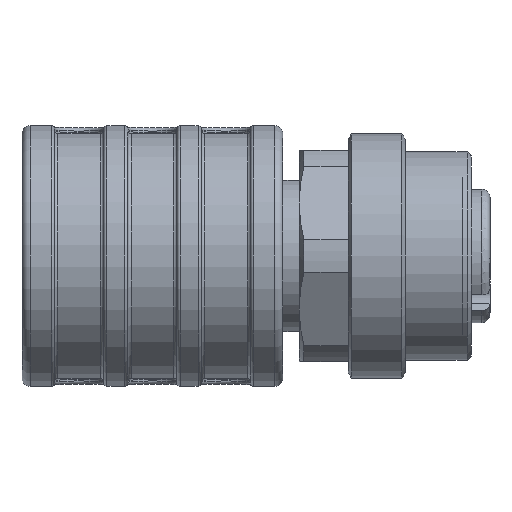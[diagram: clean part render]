
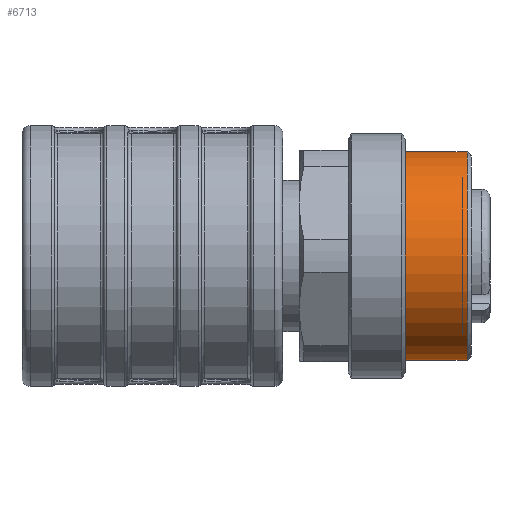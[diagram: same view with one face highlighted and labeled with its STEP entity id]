
A CAD part, left-side view. The second image highlights one B-rep face of the part: STEP entity #6713.
In plain terms, the highlighted cylindrical face has radius 6.4 mm (diameter 12.8 mm), a full revolution.
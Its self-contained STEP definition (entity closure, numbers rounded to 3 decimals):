
#769=FACE_OUTER_BOUND('',#1178,.T.);
#1178=EDGE_LOOP('',(#5103,#5104,#5105,#5106,#5107,#5108,#5109));
#1651=CIRCLE('',#7309,6.4);
#1652=CIRCLE('',#7310,6.4);
#1653=CIRCLE('',#7311,6.4);
#1654=CIRCLE('',#7313,6.4);
#1655=CIRCLE('',#7314,6.4);
#1893=LINE('',#10063,#2397);
#2397=VECTOR('',#8393,6.4);
#2960=VERTEX_POINT('',#10054);
#2961=VERTEX_POINT('',#10055);
#2962=VERTEX_POINT('',#10057);
#2963=VERTEX_POINT('',#10062);
#2964=VERTEX_POINT('',#10064);
#3755=EDGE_CURVE('',#2960,#2961,#1651,.T.);
#3756=EDGE_CURVE('',#2962,#2960,#1652,.T.);
#3757=EDGE_CURVE('',#2961,#2962,#1653,.T.);
#3759=EDGE_CURVE('',#2962,#2963,#1893,.T.);
#3760=EDGE_CURVE('',#2963,#2964,#1654,.T.);
#3761=EDGE_CURVE('',#2964,#2963,#1655,.T.);
#5103=ORIENTED_EDGE('',*,*,#3755,.T.);
#5104=ORIENTED_EDGE('',*,*,#3757,.T.);
#5105=ORIENTED_EDGE('',*,*,#3759,.T.);
#5106=ORIENTED_EDGE('',*,*,#3760,.T.);
#5107=ORIENTED_EDGE('',*,*,#3761,.T.);
#5108=ORIENTED_EDGE('',*,*,#3759,.F.);
#5109=ORIENTED_EDGE('',*,*,#3756,.T.);
#6558=CYLINDRICAL_SURFACE('',#7312,6.4);
#6713=ADVANCED_FACE('',(#769),#6558,.T.);
#7309=AXIS2_PLACEMENT_3D('',#10056,#8384,#8385);
#7310=AXIS2_PLACEMENT_3D('',#10058,#8386,#8387);
#7311=AXIS2_PLACEMENT_3D('',#10059,#8388,#8389);
#7312=AXIS2_PLACEMENT_3D('',#10061,#8391,#8392);
#7313=AXIS2_PLACEMENT_3D('',#10065,#8394,#8395);
#7314=AXIS2_PLACEMENT_3D('',#10066,#8396,#8397);
#8384=DIRECTION('center_axis',(0.,1.,0.));
#8385=DIRECTION('ref_axis',(1.,0.,0.));
#8386=DIRECTION('center_axis',(0.,1.,0.));
#8387=DIRECTION('ref_axis',(1.,0.,0.));
#8388=DIRECTION('center_axis',(0.,1.,0.));
#8389=DIRECTION('ref_axis',(1.,0.,0.));
#8391=DIRECTION('center_axis',(0.,-1.,0.));
#8392=DIRECTION('ref_axis',(0.,0.,-1.));
#8393=DIRECTION('',(0.,1.,0.));
#8394=DIRECTION('center_axis',(0.,-1.,0.));
#8395=DIRECTION('ref_axis',(0.,0.,-1.));
#8396=DIRECTION('center_axis',(0.,-1.,0.));
#8397=DIRECTION('ref_axis',(0.,0.,-1.));
#10054=CARTESIAN_POINT('',(6.4,1.4,0.));
#10055=CARTESIAN_POINT('',(-6.4,1.4,0.));
#10056=CARTESIAN_POINT('Origin',(0.,1.4,0.));
#10057=CARTESIAN_POINT('',(0.,1.4,6.4));
#10058=CARTESIAN_POINT('Origin',(0.,1.4,0.));
#10059=CARTESIAN_POINT('Origin',(0.,1.4,0.));
#10061=CARTESIAN_POINT('Origin',(0.,1.2,0.));
#10062=CARTESIAN_POINT('',(0.,5.2,6.4));
#10063=CARTESIAN_POINT('',(0.,1.2,6.4));
#10064=CARTESIAN_POINT('',(0.,5.2,-6.4));
#10065=CARTESIAN_POINT('Origin',(0.,5.2,0.));
#10066=CARTESIAN_POINT('Origin',(0.,5.2,0.));
